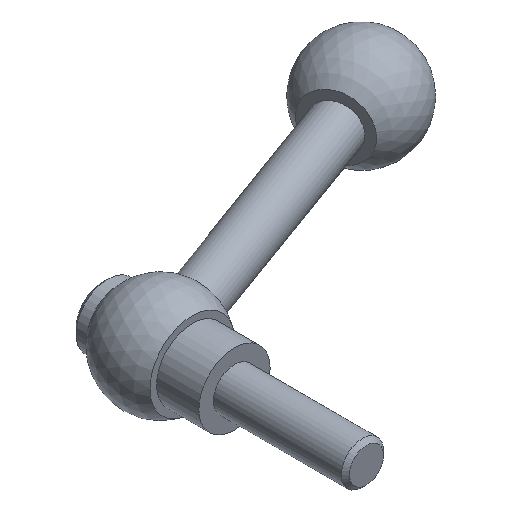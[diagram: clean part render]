
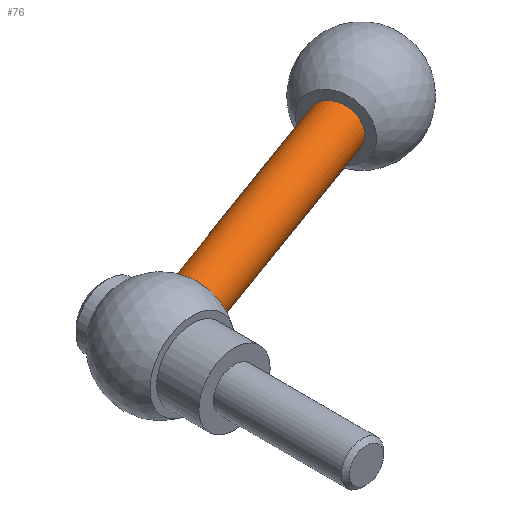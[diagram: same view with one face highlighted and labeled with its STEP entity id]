
A CAD part, isometric view. The second image highlights one B-rep face of the part: STEP entity #76.
In plain terms, the highlighted cylindrical face has radius 4.25 mm (diameter 8.5 mm), a full revolution.
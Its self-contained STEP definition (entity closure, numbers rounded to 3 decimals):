
#76 = ADVANCED_FACE( '', ( #92, #93 ), #94, .T. );
#92 = FACE_OUTER_BOUND( '', #130, .T. );
#93 = FACE_OUTER_BOUND( '', #131, .T. );
#94 = CYLINDRICAL_SURFACE( '', #132, 4.25 );
#130 = EDGE_LOOP( '', ( #170 ) );
#131 = EDGE_LOOP( '', ( #171 ) );
#132 = AXIS2_PLACEMENT_3D( '', #172, #173, #174 );
#170 = ORIENTED_EDGE( '', *, *, #230, .F. );
#171 = ORIENTED_EDGE( '', *, *, #231, .F. );
#172 = CARTESIAN_POINT( '', ( 69.397, 39.42, 0. ) );
#173 = DIRECTION( '', ( -0.94, -0.342, 0. ) );
#174 = DIRECTION( '', ( -0.342, 0.94, 0. ) );
#230 = EDGE_CURVE( '', #244, #244, #245, .T. );
#231 = EDGE_CURVE( '', #246, #246, #247, .T. );
#244 = VERTEX_POINT( '', #268 );
#245 = CIRCLE( '', #269, 4.25 );
#246 = VERTEX_POINT( '', #270 );
#247 = B_SPLINE_CURVE_WITH_KNOTS( '', 3, ( #271, #272, #273, #274, #275, #276, #277, #278, #279, #280, #281, #282, #283, #284, #285, #286, #287, #288, #289, #290, #291, #292, #293, #294, #295, #296, #297, #298, #299, #300, #301, #302, #303, #304, #305, #306, #307, #308, #309, #310, #311, #312, #313, #314, #315, #316, #317, #318, #319, #320, #321, #322, #323, #324, #325, #326, #327, #328, #329, #330, #331, #332, #333, #334, #335, #336 ), .UNSPECIFIED., .T., .F., ( 2, 2, 2, 2, 2, 2, 2, 2, 2, 2, 2, 2, 2, 2, 2, 2, 2, 2, 2, 2, 2, 2, 2, 2, 2, 2, 2, 2, 2, 2, 2, 2, 2, 2, 2 ), ( -0.001, 0., 0.001, 0.002, 0.002, 0.003, 0.004, 0.005, 0.006, 0.007, 0.007, 0.008, 0.009, 0.01, 0.011, 0.012, 0.012, 0.013, 0.014, 0.015, 0.016, 0.017, 0.017, 0.018, 0.019, 0.02, 0.021, 0.022, 0.022, 0.023, 0.024, 0.025, 0.026, 0.027, 0.027 ), .UNSPECIFIED. );
#268 = CARTESIAN_POINT( '', ( 51.029, 37.258, 0. ) );
#269 = AXIS2_PLACEMENT_3D( '', #358, #359, #360 );
#270 = CARTESIAN_POINT( '', ( 9.64, 14.14, -2.657 ) );
#271 = CARTESIAN_POINT( '', ( 9.577, 14.304, -2.876 ) );
#272 = CARTESIAN_POINT( '', ( 9.702, 13.976, -2.438 ) );
#273 = CARTESIAN_POINT( '', ( 9.756, 13.835, -2.205 ) );
#274 = CARTESIAN_POINT( '', ( 9.848, 13.597, -1.713 ) );
#275 = CARTESIAN_POINT( '', ( 9.885, 13.499, -1.452 ) );
#276 = CARTESIAN_POINT( '', ( 9.941, 13.354, -0.916 ) );
#277 = CARTESIAN_POINT( '', ( 9.959, 13.306, -0.644 ) );
#278 = CARTESIAN_POINT( '', ( 9.976, 13.261, -0.091 ) );
#279 = CARTESIAN_POINT( '', ( 9.975, 13.265, 0.192 ) );
#280 = CARTESIAN_POINT( '', ( 9.953, 13.322, 0.743 ) );
#281 = CARTESIAN_POINT( '', ( 9.933, 13.375, 1.014 ) );
#282 = CARTESIAN_POINT( '', ( 9.872, 13.532, 1.547 ) );
#283 = CARTESIAN_POINT( '', ( 9.833, 13.635, 1.805 ) );
#284 = CARTESIAN_POINT( '', ( 9.737, 13.885, 2.29 ) );
#285 = CARTESIAN_POINT( '', ( 9.681, 14.032, 2.521 ) );
#286 = CARTESIAN_POINT( '', ( 9.552, 14.368, 2.949 ) );
#287 = CARTESIAN_POINT( '', ( 9.481, 14.554, 3.143 ) );
#288 = CARTESIAN_POINT( '', ( 9.326, 14.958, 3.489 ) );
#289 = CARTESIAN_POINT( '', ( 9.242, 15.179, 3.644 ) );
#290 = CARTESIAN_POINT( '', ( 9.065, 15.64, 3.9 ) );
#291 = CARTESIAN_POINT( '', ( 8.973, 15.88, 4.003 ) );
#292 = CARTESIAN_POINT( '', ( 8.782, 16.379, 4.158 ) );
#293 = CARTESIAN_POINT( '', ( 8.683, 16.638, 4.21 ) );
#294 = CARTESIAN_POINT( '', ( 8.485, 17.153, 4.258 ) );
#295 = CARTESIAN_POINT( '', ( 8.386, 17.412, 4.255 ) );
#296 = CARTESIAN_POINT( '', ( 8.187, 17.933, 4.194 ) );
#297 = CARTESIAN_POINT( '', ( 8.089, 18.187, 4.136 ) );
#298 = CARTESIAN_POINT( '', ( 7.9, 18.68, 3.969 ) );
#299 = CARTESIAN_POINT( '', ( 7.808, 18.922, 3.859 ) );
#300 = CARTESIAN_POINT( '', ( 7.633, 19.378, 3.59 ) );
#301 = CARTESIAN_POINT( '', ( 7.551, 19.592, 3.434 ) );
#302 = CARTESIAN_POINT( '', ( 7.399, 19.989, 3.077 ) );
#303 = CARTESIAN_POINT( '', ( 7.328, 20.174, 2.874 ) );
#304 = CARTESIAN_POINT( '', ( 7.204, 20.498, 2.441 ) );
#305 = CARTESIAN_POINT( '', ( 7.15, 20.639, 2.21 ) );
#306 = CARTESIAN_POINT( '', ( 7.058, 20.88, 1.714 ) );
#307 = CARTESIAN_POINT( '', ( 7.02, 20.977, 1.453 ) );
#308 = CARTESIAN_POINT( '', ( 6.965, 21.122, 0.922 ) );
#309 = CARTESIAN_POINT( '', ( 6.946, 21.17, 0.647 ) );
#310 = CARTESIAN_POINT( '', ( 6.929, 21.215, 0.089 ) );
#311 = CARTESIAN_POINT( '', ( 6.93, 21.212, -0.188 ) );
#312 = CARTESIAN_POINT( '', ( 6.952, 21.156, -0.739 ) );
#313 = CARTESIAN_POINT( '', ( 6.973, 21.101, -1.015 ) );
#314 = CARTESIAN_POINT( '', ( 7.033, 20.945, -1.546 ) );
#315 = CARTESIAN_POINT( '', ( 7.071, 20.843, -1.8 ) );
#316 = CARTESIAN_POINT( '', ( 7.167, 20.593, -2.288 ) );
#317 = CARTESIAN_POINT( '', ( 7.224, 20.444, -2.521 ) );
#318 = CARTESIAN_POINT( '', ( 7.352, 20.112, -2.945 ) );
#319 = CARTESIAN_POINT( '', ( 7.423, 19.927, -3.139 ) );
#320 = CARTESIAN_POINT( '', ( 7.579, 19.518, -3.49 ) );
#321 = CARTESIAN_POINT( '', ( 7.663, 19.3, -3.642 ) );
#322 = CARTESIAN_POINT( '', ( 7.839, 18.842, -3.898 ) );
#323 = CARTESIAN_POINT( '', ( 7.932, 18.598, -4.003 ) );
#324 = CARTESIAN_POINT( '', ( 8.124, 18.098, -4.159 ) );
#325 = CARTESIAN_POINT( '', ( 8.221, 17.843, -4.209 ) );
#326 = CARTESIAN_POINT( '', ( 8.419, 17.327, -4.258 ) );
#327 = CARTESIAN_POINT( '', ( 8.52, 17.063, -4.255 ) );
#328 = CARTESIAN_POINT( '', ( 8.717, 16.548, -4.194 ) );
#329 = CARTESIAN_POINT( '', ( 8.814, 16.294, -4.138 ) );
#330 = CARTESIAN_POINT( '', ( 9.005, 15.797, -3.97 ) );
#331 = CARTESIAN_POINT( '', ( 9.097, 15.556, -3.859 ) );
#332 = CARTESIAN_POINT( '', ( 9.271, 15.103, -3.593 ) );
#333 = CARTESIAN_POINT( '', ( 9.353, 14.888, -3.436 ) );
#334 = CARTESIAN_POINT( '', ( 9.507, 14.486, -3.076 ) );
#335 = CARTESIAN_POINT( '', ( 9.577, 14.304, -2.876 ) );
#336 = CARTESIAN_POINT( '', ( 9.702, 13.976, -2.438 ) );
#358 = CARTESIAN_POINT( '', ( 52.482, 33.264, 0. ) );
#359 = DIRECTION( '', ( 0.94, 0.342, 0. ) );
#360 = DIRECTION( '', ( -0.342, 0.94, 0. ) );
